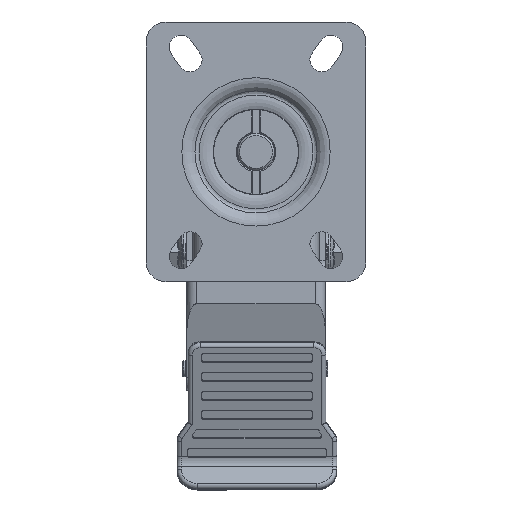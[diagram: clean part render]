
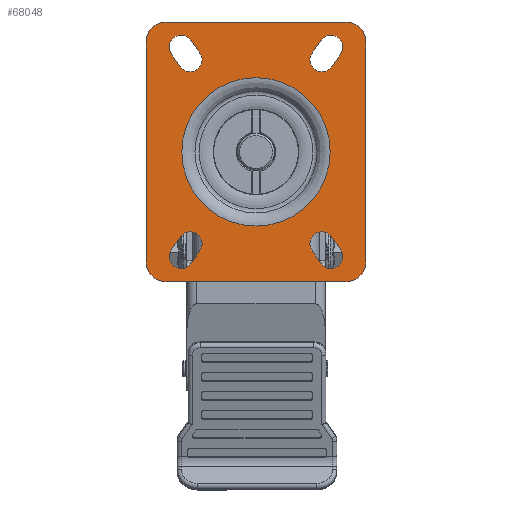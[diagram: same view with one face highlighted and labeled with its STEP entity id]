
A CAD part, top view. The second image highlights one B-rep face of the part: STEP entity #68048.
In plain terms, the highlighted planar face has unit normal (0, 0, 1).
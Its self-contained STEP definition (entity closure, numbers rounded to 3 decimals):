
#67658=CARTESIAN_POINT('',(0.0,-37.123,0.0));
#67659=VERTEX_POINT('',#67658);
#67660=CARTESIAN_POINT('',(0.0,0.0,0.0));
#67661=DIRECTION('',(0.0,0.0,-1.0));
#67662=DIRECTION('',(0.0,-1.0,0.0));
#67663=AXIS2_PLACEMENT_3D('',#67660,#67661,#67662);
#67664=CIRCLE('',#67663,37.123);
#67665=EDGE_CURVE('',#67659,#67659,#67664,.T.);
#67786=CARTESIAN_POINT('',(55.0,-55.,0.0));
#67787=VERTEX_POINT('',#67786);
#67794=CARTESIAN_POINT('',(45.0,-65.,0.0));
#67795=VERTEX_POINT('',#67794);
#67796=CARTESIAN_POINT('',(45.0,-55.,0.0));
#67797=DIRECTION('',(0.0,0.0,-1.));
#67798=DIRECTION('',(0.707,-0.707,0.0));
#67799=AXIS2_PLACEMENT_3D('',#67796,#67797,#67798);
#67800=CIRCLE('',#67799,10.);
#67801=EDGE_CURVE('',#67787,#67795,#67800,.T.);
#67818=CARTESIAN_POINT('',(-45.,-65.,0.0));
#67819=VERTEX_POINT('',#67818);
#67820=CARTESIAN_POINT('',(-45.,-65.,0.0));
#67821=DIRECTION('',(1.0,0.0,0.0));
#67822=VECTOR('',#67821,90.);
#67823=LINE('',#67820,#67822);
#67824=EDGE_CURVE('',#67819,#67795,#67823,.T.);
#67843=CARTESIAN_POINT('',(0.0,-38.562,0.0));
#67844=DIRECTION('',(0.0,0.0,1.0));
#67845=DIRECTION('',(-1.0,0.0,0.0));
#67846=AXIS2_PLACEMENT_3D('',#67843,#67844,#67845);
#67847=PLANE('',#67846);
#67848=ORIENTED_EDGE('',*,*,#67801,.F.);
#67849=CARTESIAN_POINT('',(55.0,55.,0.0));
#67850=VERTEX_POINT('',#67849);
#67851=CARTESIAN_POINT('',(55.0,-55.,0.0));
#67852=DIRECTION('',(0.0,1.0,0.0));
#67853=VECTOR('',#67852,110.);
#67854=LINE('',#67851,#67853);
#67855=EDGE_CURVE('',#67787,#67850,#67854,.T.);
#67856=ORIENTED_EDGE('',*,*,#67855,.T.);
#67857=CARTESIAN_POINT('',(45.0,65.,0.0));
#67858=VERTEX_POINT('',#67857);
#67859=CARTESIAN_POINT('',(45.0,55.,0.0));
#67860=DIRECTION('',(0.0,0.0,-1.));
#67861=DIRECTION('',(0.707,0.707,0.0));
#67862=AXIS2_PLACEMENT_3D('',#67859,#67860,#67861);
#67863=CIRCLE('',#67862,10.);
#67864=EDGE_CURVE('',#67858,#67850,#67863,.T.);
#67865=ORIENTED_EDGE('',*,*,#67864,.F.);
#67866=CARTESIAN_POINT('',(-45.,65.,0.0));
#67867=VERTEX_POINT('',#67866);
#67868=CARTESIAN_POINT('',(45.0,65.,0.0));
#67869=DIRECTION('',(-1.0,0.0,0.0));
#67870=VECTOR('',#67869,90.);
#67871=LINE('',#67868,#67870);
#67872=EDGE_CURVE('',#67858,#67867,#67871,.T.);
#67873=ORIENTED_EDGE('',*,*,#67872,.T.);
#67874=CARTESIAN_POINT('',(-55.,55.,0.0));
#67875=VERTEX_POINT('',#67874);
#67876=CARTESIAN_POINT('',(-45.,55.,0.0));
#67877=DIRECTION('',(0.0,0.0,-1.));
#67878=DIRECTION('',(-0.707,0.707,0.0));
#67879=AXIS2_PLACEMENT_3D('',#67876,#67877,#67878);
#67880=CIRCLE('',#67879,10.);
#67881=EDGE_CURVE('',#67875,#67867,#67880,.T.);
#67882=ORIENTED_EDGE('',*,*,#67881,.F.);
#67883=CARTESIAN_POINT('',(-55.,-55.,0.0));
#67884=VERTEX_POINT('',#67883);
#67885=CARTESIAN_POINT('',(-55.,55.,0.0));
#67886=DIRECTION('',(0.0,-1.0,0.0));
#67887=VECTOR('',#67886,110.0);
#67888=LINE('',#67885,#67887);
#67889=EDGE_CURVE('',#67875,#67884,#67888,.T.);
#67890=ORIENTED_EDGE('',*,*,#67889,.T.);
#67891=CARTESIAN_POINT('',(-45.,-55.,0.0));
#67892=DIRECTION('',(0.0,0.0,-1.));
#67893=DIRECTION('',(-0.707,-0.707,0.0));
#67894=AXIS2_PLACEMENT_3D('',#67891,#67892,#67893);
#67895=CIRCLE('',#67894,10.);
#67896=EDGE_CURVE('',#67819,#67884,#67895,.T.);
#67897=ORIENTED_EDGE('',*,*,#67896,.F.);
#67898=ORIENTED_EDGE('',*,*,#67824,.T.);
#67899=EDGE_LOOP('',(#67848,#67856,#67865,#67873,#67882,#67890,#67897,#67898));
#67900=FACE_OUTER_BOUND('',#67899,.T.);
#67901=CARTESIAN_POINT('',(32.567,55.915,0.0));
#67902=VERTEX_POINT('',#67901);
#67903=CARTESIAN_POINT('',(42.433,49.085,0.0));
#67904=VERTEX_POINT('',#67903);
#67905=CARTESIAN_POINT('',(37.5,52.5,0.0));
#67906=DIRECTION('',(0.0,0.0,-1.0));
#67907=DIRECTION('',(0.0,-1.0,0.0));
#67908=AXIS2_PLACEMENT_3D('',#67905,#67906,#67907);
#67909=CIRCLE('',#67908,6.);
#67910=EDGE_CURVE('',#67902,#67904,#67909,.T.);
#67911=ORIENTED_EDGE('',*,*,#67910,.T.);
#67912=CARTESIAN_POINT('',(37.933,42.585,0.0));
#67913=VERTEX_POINT('',#67912);
#67914=CARTESIAN_POINT('',(42.433,49.085,0.0));
#67915=DIRECTION('',(-0.569,-0.822,0.0));
#67916=VECTOR('',#67915,7.906);
#67917=LINE('',#67914,#67916);
#67918=EDGE_CURVE('',#67904,#67913,#67917,.T.);
#67919=ORIENTED_EDGE('',*,*,#67918,.T.);
#67920=CARTESIAN_POINT('',(28.067,49.415,0.0));
#67921=VERTEX_POINT('',#67920);
#67922=CARTESIAN_POINT('',(33.,46.,0.0));
#67923=DIRECTION('',(0.0,0.0,-1.0));
#67924=DIRECTION('',(0.0,-1.0,0.0));
#67925=AXIS2_PLACEMENT_3D('',#67922,#67923,#67924);
#67926=CIRCLE('',#67925,6.);
#67927=EDGE_CURVE('',#67913,#67921,#67926,.T.);
#67928=ORIENTED_EDGE('',*,*,#67927,.T.);
#67929=CARTESIAN_POINT('',(28.067,49.415,0.0));
#67930=DIRECTION('',(0.569,0.822,0.0));
#67931=VECTOR('',#67930,7.906);
#67932=LINE('',#67929,#67931);
#67933=EDGE_CURVE('',#67921,#67902,#67932,.T.);
#67934=ORIENTED_EDGE('',*,*,#67933,.T.);
#67935=EDGE_LOOP('',(#67911,#67919,#67928,#67934));
#67936=FACE_BOUND('',#67935,.T.);
#67937=CARTESIAN_POINT('',(-42.433,49.085,0.0));
#67938=VERTEX_POINT('',#67937);
#67939=CARTESIAN_POINT('',(-32.567,55.915,0.0));
#67940=VERTEX_POINT('',#67939);
#67941=CARTESIAN_POINT('',(-37.5,52.5,0.0));
#67942=DIRECTION('',(0.0,0.0,-1.0));
#67943=DIRECTION('',(0.0,-1.0,0.0));
#67944=AXIS2_PLACEMENT_3D('',#67941,#67942,#67943);
#67945=CIRCLE('',#67944,6.);
#67946=EDGE_CURVE('',#67938,#67940,#67945,.T.);
#67947=ORIENTED_EDGE('',*,*,#67946,.T.);
#67948=CARTESIAN_POINT('',(-28.067,49.415,0.0));
#67949=VERTEX_POINT('',#67948);
#67950=CARTESIAN_POINT('',(-32.567,55.915,0.0));
#67951=DIRECTION('',(0.569,-0.822,0.0));
#67952=VECTOR('',#67951,7.906);
#67953=LINE('',#67950,#67952);
#67954=EDGE_CURVE('',#67940,#67949,#67953,.T.);
#67955=ORIENTED_EDGE('',*,*,#67954,.T.);
#67956=CARTESIAN_POINT('',(-37.933,42.585,0.0));
#67957=VERTEX_POINT('',#67956);
#67958=CARTESIAN_POINT('',(-33.,46.,0.0));
#67959=DIRECTION('',(0.0,0.0,-1.0));
#67960=DIRECTION('',(0.0,-1.0,0.0));
#67961=AXIS2_PLACEMENT_3D('',#67958,#67959,#67960);
#67962=CIRCLE('',#67961,6.);
#67963=EDGE_CURVE('',#67949,#67957,#67962,.T.);
#67964=ORIENTED_EDGE('',*,*,#67963,.T.);
#67965=CARTESIAN_POINT('',(-37.933,42.585,0.0));
#67966=DIRECTION('',(-0.569,0.822,0.0));
#67967=VECTOR('',#67966,7.906);
#67968=LINE('',#67965,#67967);
#67969=EDGE_CURVE('',#67957,#67938,#67968,.T.);
#67970=ORIENTED_EDGE('',*,*,#67969,.T.);
#67971=EDGE_LOOP('',(#67947,#67955,#67964,#67970));
#67972=FACE_BOUND('',#67971,.T.);
#67973=CARTESIAN_POINT('',(-32.567,-55.915,0.0));
#67974=VERTEX_POINT('',#67973);
#67975=CARTESIAN_POINT('',(-42.433,-49.085,0.0));
#67976=VERTEX_POINT('',#67975);
#67977=CARTESIAN_POINT('',(-37.5,-52.5,0.0));
#67978=DIRECTION('',(0.0,0.0,-1.0));
#67979=DIRECTION('',(0.0,-1.0,0.0));
#67980=AXIS2_PLACEMENT_3D('',#67977,#67978,#67979);
#67981=CIRCLE('',#67980,6.);
#67982=EDGE_CURVE('',#67974,#67976,#67981,.T.);
#67983=ORIENTED_EDGE('',*,*,#67982,.T.);
#67984=CARTESIAN_POINT('',(-37.933,-42.585,0.0));
#67985=VERTEX_POINT('',#67984);
#67986=CARTESIAN_POINT('',(-42.433,-49.085,0.0));
#67987=DIRECTION('',(0.569,0.822,0.0));
#67988=VECTOR('',#67987,7.906);
#67989=LINE('',#67986,#67988);
#67990=EDGE_CURVE('',#67976,#67985,#67989,.T.);
#67991=ORIENTED_EDGE('',*,*,#67990,.T.);
#67992=CARTESIAN_POINT('',(-28.067,-49.415,0.0));
#67993=VERTEX_POINT('',#67992);
#67994=CARTESIAN_POINT('',(-33.0,-46.,0.0));
#67995=DIRECTION('',(0.0,0.0,-1.0));
#67996=DIRECTION('',(0.0,-1.0,0.0));
#67997=AXIS2_PLACEMENT_3D('',#67994,#67995,#67996);
#67998=CIRCLE('',#67997,6.);
#67999=EDGE_CURVE('',#67985,#67993,#67998,.T.);
#68000=ORIENTED_EDGE('',*,*,#67999,.T.);
#68001=CARTESIAN_POINT('',(-28.067,-49.415,0.0));
#68002=DIRECTION('',(-0.569,-0.822,0.0));
#68003=VECTOR('',#68002,7.906);
#68004=LINE('',#68001,#68003);
#68005=EDGE_CURVE('',#67993,#67974,#68004,.T.);
#68006=ORIENTED_EDGE('',*,*,#68005,.T.);
#68007=EDGE_LOOP('',(#67983,#67991,#68000,#68006));
#68008=FACE_BOUND('',#68007,.T.);
#68009=CARTESIAN_POINT('',(37.933,-42.585,0.0));
#68010=VERTEX_POINT('',#68009);
#68011=CARTESIAN_POINT('',(42.433,-49.085,0.0));
#68012=VERTEX_POINT('',#68011);
#68013=CARTESIAN_POINT('',(37.933,-42.585,0.0));
#68014=DIRECTION('',(0.569,-0.822,0.0));
#68015=VECTOR('',#68014,7.906);
#68016=LINE('',#68013,#68015);
#68017=EDGE_CURVE('',#68010,#68012,#68016,.T.);
#68018=ORIENTED_EDGE('',*,*,#68017,.T.);
#68019=CARTESIAN_POINT('',(32.567,-55.915,0.0));
#68020=VERTEX_POINT('',#68019);
#68021=CARTESIAN_POINT('',(37.5,-52.5,0.0));
#68022=DIRECTION('',(0.0,0.0,-1.0));
#68023=DIRECTION('',(0.0,-1.0,0.0));
#68024=AXIS2_PLACEMENT_3D('',#68021,#68022,#68023);
#68025=CIRCLE('',#68024,6.);
#68026=EDGE_CURVE('',#68012,#68020,#68025,.T.);
#68027=ORIENTED_EDGE('',*,*,#68026,.T.);
#68028=CARTESIAN_POINT('',(28.067,-49.415,0.0));
#68029=VERTEX_POINT('',#68028);
#68030=CARTESIAN_POINT('',(32.567,-55.915,0.0));
#68031=DIRECTION('',(-0.569,0.822,0.0));
#68032=VECTOR('',#68031,7.906);
#68033=LINE('',#68030,#68032);
#68034=EDGE_CURVE('',#68020,#68029,#68033,.T.);
#68035=ORIENTED_EDGE('',*,*,#68034,.T.);
#68036=CARTESIAN_POINT('',(33.,-46.,0.0));
#68037=DIRECTION('',(0.0,0.0,-1.0));
#68038=DIRECTION('',(0.0,-1.0,0.0));
#68039=AXIS2_PLACEMENT_3D('',#68036,#68037,#68038);
#68040=CIRCLE('',#68039,6.);
#68041=EDGE_CURVE('',#68029,#68010,#68040,.T.);
#68042=ORIENTED_EDGE('',*,*,#68041,.T.);
#68043=EDGE_LOOP('',(#68018,#68027,#68035,#68042));
#68044=FACE_BOUND('',#68043,.T.);
#68045=ORIENTED_EDGE('',*,*,#67665,.T.);
#68046=EDGE_LOOP('',(#68045));
#68047=FACE_BOUND('',#68046,.T.);
#68048=ADVANCED_FACE('',(#67900,#67936,#67972,#68008,#68044,#68047),#67847,.T.);
